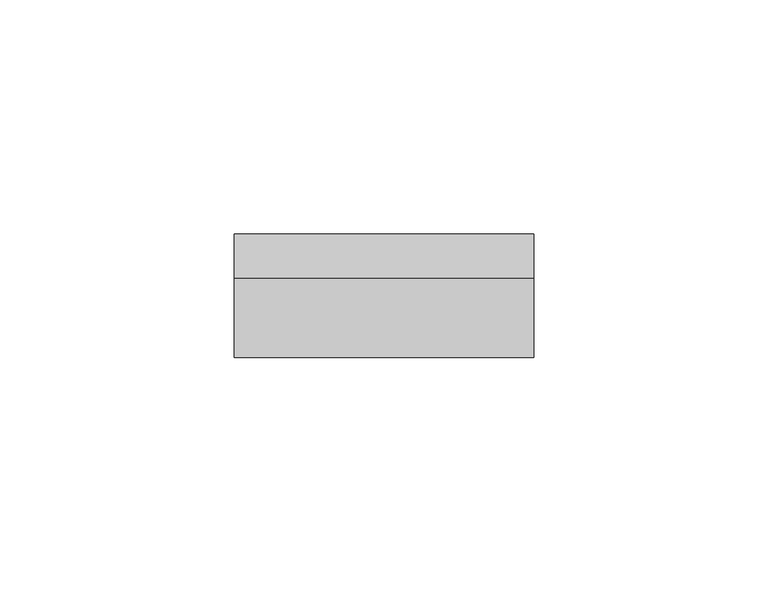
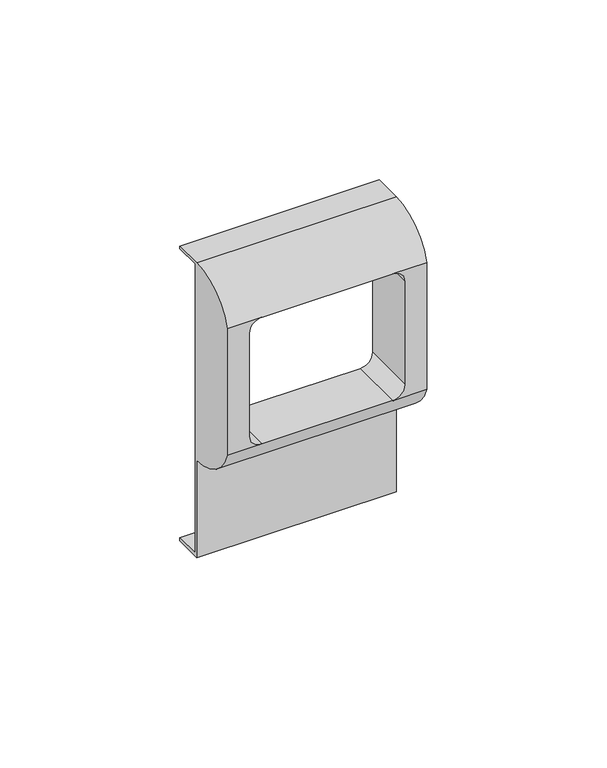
"""IFC4 building model written with IfcOpenShell, lengths in millimetres: proxy geometry."""

from ifc_helpers import new_model, si_unit, frame, origin, place, context, project, spatial, polyline, circle_curve, source, transform, mapped, element, save
from ifc_brep_helpers import plane_surface, cylinder_surface, revolved_surface, advanced_brep


def electrical_fixtures_6fa73d0b(model_context):
    return source(origin(), model_context, "Body", "AdvancedBrep", [
        advanced_brep(
        [(32.0, 8.4, 49.0), (32.0, 8.4, 50.0), (32.0, -1.0, 50.0), (32.0, -18.0, 38.0), (32.0, -18.0, -5.0), (32.0, -1.0, -17.0), (32.0, -1.0, -50.0), (32.0, 8.4, -50.0), (32.0, 8.4, -49.0), (32.0, 0.0, -49.0), (32.0, 0.0, 49.0), (-32.0, 8.4, 49.0), (-32.0, 0.0, 49.0), (-32.0, 0.0, -49.0), (-32.0, 8.4, -49.0), (-32.0, 8.4, -50.0), (-32.0, -1.0, -50.0), (-32.0, -1.0, -17.0), (-32.0, -18.0, -5.0), (-32.0, -18.0, 38.0), (-32.0, -1.0, 50.0), (-32.0, 8.4, 50.0), (20.9686648, -18.0, 38.0), (25.0, -18.0, 33.9686648), (25.0, -18.0, -0.9686648), (20.9686648, -18.0, -5.0), (-20.9686648, -18.0, -5.0), (-25.0, -18.0, -0.9686648), (-25.0, -18.0, 33.9686648), (-20.9686648, -18.0, 38.0), (20.9686648, 0.0, 38.0), (-20.9686648, 0.0, 38.0), (-25.0, 0.0, 33.9686648), (-25.0, 0.0, -0.9686648), (-20.9686648, 0.0, -5.0), (20.9686648, 0.0, -5.0), (25.0, 0.0, -0.9686648), (25.0, 0.0, 33.9686648)],
        [
            (0, 1),
            (1, 2),
            (2, 3, circle_curve(frame((32.0, -1.0, 31.9583333), z_axis=(1.0, 0.0, 0.0), x_axis=(0.0, 1.0, 0.0)), 18.0416667)),
            (3, 4),
            (4, 5, circle_curve(frame((32.0, -1.0, 1.0416667), z_axis=(1.0, 0.0, 0.0), x_axis=(0.0, 1.0, 0.0)), 18.0416667)),
            (5, 6),
            (6, 7),
            (7, 8),
            (8, 9),
            (9, 10),
            (10, 0),
            (11, 12),
            (12, 13),
            (13, 14),
            (14, 15),
            (15, 16),
            (16, 17),
            (17, 18, circle_curve(frame((-32.0, -1.0, 1.0416667), z_axis=(-1.0, 0.0, 0.0), x_axis=(0.0, 1.0, 0.0)), 18.0416667)),
            (18, 19),
            (19, 20, circle_curve(frame((-32.0, -1.0, 31.9583333), z_axis=(-1.0, 0.0, 0.0), x_axis=(0.0, 1.0, 0.0)), 18.0416667)),
            (20, 21),
            (21, 11),
            (0, 11),
            (21, 1),
            (20, 2),
            (3, 22),
            (22, 23, circle_curve(frame((20.9686648, -18.0, 33.9686648), z_axis=(0.0, 1.0, 0.0), x_axis=(1.0, 0.0, 0.0)), 4.0313352)),
            (23, 24),
            (24, 25, circle_curve(frame((20.9686648, -18.0, -0.9686648), z_axis=(0.0, 1.0, 0.0), x_axis=(1.0, 0.0, 0.0)), 4.0313352)),
            (25, 4),
            (18, 26),
            (26, 27, circle_curve(frame((-20.9686648, -18.0, -0.9686648), z_axis=(0.0, 1.0, 0.0), x_axis=(1.0, 0.0, 0.0)), 4.0313352)),
            (27, 28),
            (28, 29, circle_curve(frame((-20.9686648, -18.0, 33.9686648), z_axis=(0.0, 1.0, 0.0), x_axis=(1.0, 0.0, 0.0)), 4.0313352)),
            (29, 19),
            (5, 17),
            (16, 6),
            (15, 7),
            (14, 8),
            (13, 9),
            (12, 10),
            (30, 31),
            (31, 32, circle_curve(frame((-20.9686648, 0.0, 33.9686648), z_axis=(0.0, -1.0, 0.0), x_axis=(1.0, 0.0, 0.0)), 4.0313352)),
            (32, 33),
            (33, 34, circle_curve(frame((-20.9686648, 0.0, -0.9686648), z_axis=(0.0, -1.0, 0.0), x_axis=(1.0, 0.0, 0.0)), 4.0313352)),
            (34, 35),
            (35, 36, circle_curve(frame((20.9686648, 0.0, -0.9686648), z_axis=(0.0, -1.0, 0.0), x_axis=(1.0, 0.0, 0.0)), 4.0313352)),
            (36, 37),
            (37, 30, circle_curve(frame((20.9686648, 0.0, 33.9686648), z_axis=(0.0, -1.0, 0.0), x_axis=(1.0, 0.0, 0.0)), 4.0313352)),
            (29, 22),
            (25, 26),
            (29, 31),
            (30, 22),
            (28, 32),
            (27, 33),
            (26, 34),
            (25, 35),
            (24, 36),
            (23, 37),
        ],
        [
            plane_surface(frame((32.0, 8.4, 50.0), z_axis=(1.0, 0.0, 0.0), x_axis=(0.0, 0.0, 1.0))),
            plane_surface(frame((-32.0, 8.4, 50.0), z_axis=(-1.0, 0.0, 0.0), x_axis=(0.0, 0.0, -1.0))),
            plane_surface(frame((32.0, 8.4, 49.0), z_axis=(0.0, 1.0, 0.0), x_axis=(-1.0, 0.0, 0.0))),
            plane_surface(frame((32.0, 8.4, 50.0), z_axis=(0.0, 0.0, 1.0), x_axis=(-1.0, 0.0, 0.0))),
            plane_surface(frame((32.0, -18.0, 38.0), z_axis=(0.0, -1.0, 0.0), x_axis=(-1.0, 0.0, 0.0))),
            plane_surface(frame((32.0, -1.0, -17.0), z_axis=(0.0, -1.0, 0.0), x_axis=(-1.0, 0.0, 0.0))),
            plane_surface(frame((32.0, -1.0, -50.0), z_axis=(0.0, 0.0, -1.0), x_axis=(-1.0, 0.0, 0.0))),
            plane_surface(frame((32.0, 8.4, -50.0), z_axis=(0.0, 1.0, 0.0), x_axis=(-1.0, 0.0, 0.0))),
            plane_surface(frame((32.0, 8.4, -49.0), z_axis=(0.0, 0.0, 1.0), x_axis=(-1.0, 0.0, 0.0))),
            plane_surface(frame((32.0, 0.0, -49.0), z_axis=(0.0, 1.0, 0.0), x_axis=(-1.0, 0.0, 0.0))),
            plane_surface(frame((32.0, 0.0, 49.0), z_axis=(0.0, 0.0, -1.0), x_axis=(-1.0, 0.0, 0.0))),
            cylinder_surface(frame((-32.0, -1.0, 31.9583333), z_axis=(1.0, 0.0, 0.0), x_axis=(0.0, 1.0, 0.0)), 18.0416667),
            cylinder_surface(frame((-32.0, -1.0, 1.0416667), z_axis=(1.0, 0.0, 0.0), x_axis=(0.0, 1.0, 0.0)), 18.0416667),
            plane_surface(frame((20.9686648, -18.0, 38.0), z_axis=(0.0, 0.0, -1.0), x_axis=(0.0, 1.0, 0.0))),
            revolved_surface(polyline([(-16.937329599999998, -18.0, 33.9686648), (-16.937329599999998, 0.0, 33.9686648)]), (-20.9686648, 0.0, 33.9686648), (0.0, -1.0, 0.0)),
            plane_surface(frame((-25.0, -18.0, 33.9686648), z_axis=(1.0, 0.0, 0.0), x_axis=(0.0, 1.0, 0.0))),
            revolved_surface(polyline([(-16.937329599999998, -18.0, -0.9686648), (-16.937329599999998, 0.0, -0.9686648)]), (-20.9686648, 0.0, -0.9686648), (0.0, -1.0, 0.0)),
            plane_surface(frame((-20.9686648, -18.0, -5.0), z_axis=(0.0, 0.0, 1.0), x_axis=(0.0, 1.0, 0.0))),
            revolved_surface(polyline([(25.0, -18.0, -0.9686648), (25.0, 0.0, -0.9686648)]), (20.9686648, 0.0, -0.9686648), (0.0, -1.0, 0.0)),
            plane_surface(frame((25.0, -18.0, -0.9686648), z_axis=(-1.0, 0.0, 0.0), x_axis=(0.0, 1.0, 0.0))),
            revolved_surface(polyline([(25.0, -18.0, 33.9686648), (25.0, 0.0, 33.9686648)]), (20.9686648, 0.0, 33.9686648), (0.0, -1.0, 0.0)),
        ],
        [
            (0, [[1, 2, 3, 4, 5, 6, 7, 8, 9, 10, 11]]),
            (1, [[12, 13, 14, 15, 16, 17, 18, 19, 20, 21, 22]]),
            (2, [[-1, 23, -22, 24]]),
            (3, [[-2, -24, -21, 25]]),
            (4, [[-4, 26, 27, 28, 29, 30]]),
            (4, [[-19, 31, 32, 33, 34, 35]]),
            (5, [[-6, 36, -17, 37]]),
            (6, [[-7, -37, -16, 38]]),
            (7, [[-8, -38, -15, 39]]),
            (8, [[-9, -39, -14, 40]]),
            (9, [[-10, -40, -13, 41], [42, 43, 44, 45, 46, 47, 48, 49]]),
            (10, [[-11, -41, -12, -23]]),
            (11, [[-3, -25, -20, -35, 50, -26]]),
            (12, [[-5, -30, 51, -31, -18, -36]]),
            (13, [[52, -42, 53, -50]]),
            (14, [[-52, -34, 54, -43]]),
            (15, [[-54, -33, 55, -44]]),
            (16, [[-55, -32, 56, -45]]),
            (17, [[-56, -51, 57, -46]]),
            (18, [[-57, -29, 58, -47]]),
            (19, [[-58, -28, 59, -48]]),
            (20, [[-53, -49, -59, -27]]),
        ],
    ),
    ])


if __name__ == "__main__":
    model = new_model("IFC4")
    model_context = context("Model", 3, world=origin())
    ifc_project = project(units=[si_unit("LENGTHUNIT", "METRE", prefix="MILLI")], contexts=[model_context])
    site = spatial("IfcSite", under=ifc_project)
    building = spatial("IfcBuilding", under=site)
    placement = place(None, origin())
    electrical_fixtures_shape = electrical_fixtures_6fa73d0b(model_context)
    element("IfcBuildingElementProxy", 1, Name="КНС_РамкаСуппорт_ILC_DKC : Серия \"Brava\"", ObjectType="КНС_РамкаСуппорт_ILC_DKC : Серия \"Brava\"", at=placement, inside=building, context=model_context, shape_type="MappedRepresentation", body=[
        mapped(electrical_fixtures_shape, transform((0.0, 0.0, 0.0), x_axis=(1.0, 0.0, 0.0), y_axis=(0.0, 1.0, 0.0), z_axis=(0.0, 0.0, 1.0))),
    ])
    save(model, "model.ifc")
